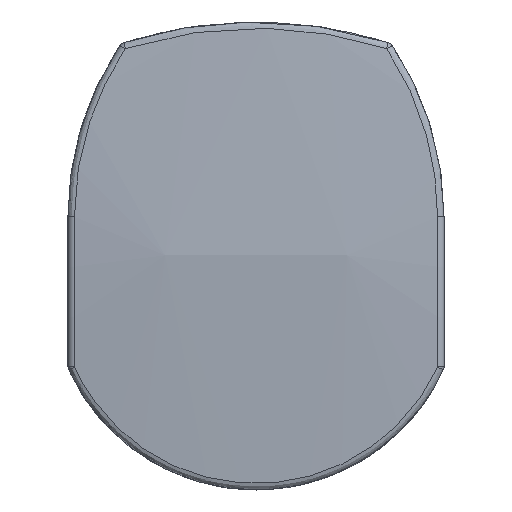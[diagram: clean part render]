
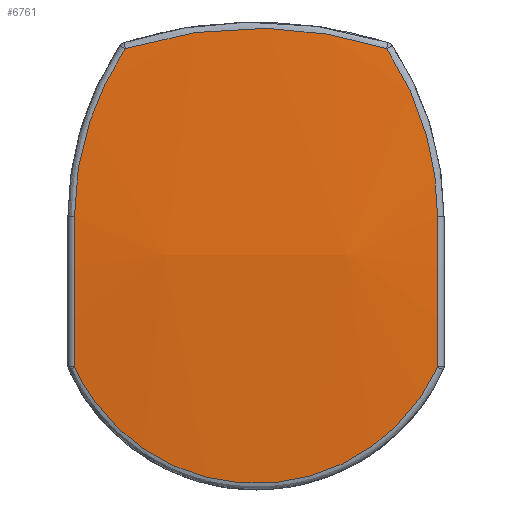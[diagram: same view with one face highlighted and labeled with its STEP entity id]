
A CAD part, front view. The second image highlights one B-rep face of the part: STEP entity #6761.
In plain terms, the highlighted spherical face has radius 250 mm.
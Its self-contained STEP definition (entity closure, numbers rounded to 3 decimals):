
#5819=CARTESIAN_POINT('',(-18.082,-6.372,29.996));
#5820=VERTEX_POINT('',#5819);
#5844=CARTESIAN_POINT('',(-25.1,-7.82,6.792));
#5845=VERTEX_POINT('',#5844);
#5853=CARTESIAN_POINT('',(-25.1,-7.82,6.792));
#5854=CARTESIAN_POINT('',(-25.1,-7.722,9.128));
#5855=CARTESIAN_POINT('',(-24.805,-7.555,12.652));
#5856=CARTESIAN_POINT('',(-23.824,-7.296,17.246));
#5857=CARTESIAN_POINT('',(-22.81,-7.087,20.598));
#5858=CARTESIAN_POINT('',(-21.513,-6.862,23.871));
#5859=CARTESIAN_POINT('',(-19.943,-6.623,27.024));
#5860=CARTESIAN_POINT('',(-18.728,-6.456,29.025));
#5861=CARTESIAN_POINT('',(-18.082,-6.372,29.996));
#5862=B_SPLINE_CURVE_WITH_KNOTS('',3,(#5853,#5854,#5855,#5856,#5857,#5858,#5859,#5860,#5861),.UNSPECIFIED.,.F.,.U.,(4,1,1,1,1,1,4),(0.0,0.699,1.048,1.397,1.747,2.096,2.445),.UNSPECIFIED.);
#5863=EDGE_CURVE('',#5845,#5820,#5862,.T.);
#5875=CARTESIAN_POINT('',(-25.1,-7.82,-13.976));
#5876=VERTEX_POINT('',#5875);
#5884=CARTESIAN_POINT('',(-25.1,240.7,-3.6));
#5885=DIRECTION('',(-1.0,0.0,0.0));
#5886=DIRECTION('',(0.0,-1.,0.));
#5887=AXIS2_PLACEMENT_3D('',#5884,#5885,#5886);
#5888=CIRCLE('',#5887,248.737);
#5889=EDGE_CURVE('',#5876,#5845,#5888,.T.);
#5938=CARTESIAN_POINT('',(-18.029,-6.37,30.035));
#5939=VERTEX_POINT('',#5938);
#5958=CARTESIAN_POINT('',(-18.082,-6.372,29.996));
#5959=CARTESIAN_POINT('',(-18.076,-6.371,30.005));
#5960=CARTESIAN_POINT('',(-18.06,-6.37,30.022));
#5961=CARTESIAN_POINT('',(-18.04,-6.37,30.032));
#5962=CARTESIAN_POINT('',(-18.029,-6.37,30.035));
#5963=B_SPLINE_CURVE_WITH_KNOTS('',3,(#5958,#5959,#5960,#5961,#5962),.UNSPECIFIED.,.F.,.U.,(4,1,4),(0.0,0.003,0.007),.UNSPECIFIED.);
#5964=EDGE_CURVE('',#5820,#5939,#5963,.T.);
#6016=CARTESIAN_POINT('',(-25.091,-7.819,-14.018));
#6017=VERTEX_POINT('',#6016);
#6025=CARTESIAN_POINT('',(-25.091,-7.819,-14.018));
#6026=CARTESIAN_POINT('',(-25.095,-7.819,-14.011));
#6027=CARTESIAN_POINT('',(-25.099,-7.82,-13.997));
#6028=CARTESIAN_POINT('',(-25.1,-7.82,-13.982));
#6029=CARTESIAN_POINT('',(-25.1,-7.82,-13.976));
#6030=B_SPLINE_CURVE_WITH_KNOTS('',3,(#6025,#6026,#6027,#6028,#6029),.UNSPECIFIED.,.F.,.U.,(4,1,4),(0.0,0.002,0.004),.UNSPECIFIED.);
#6031=EDGE_CURVE('',#6017,#5876,#6030,.T.);
#6100=CARTESIAN_POINT('',(18.029,-6.37,30.035));
#6101=VERTEX_POINT('',#6100);
#6124=CARTESIAN_POINT('',(-18.029,-6.37,30.035));
#6125=CARTESIAN_POINT('',(-16.374,-6.419,30.564));
#6126=CARTESIAN_POINT('',(-11.323,-6.546,31.939));
#6127=CARTESIAN_POINT('',(-4.348,-6.631,32.866));
#6128=CARTESIAN_POINT('',(2.607,-6.631,32.865));
#6129=CARTESIAN_POINT('',(7.836,-6.588,32.404));
#6130=CARTESIAN_POINT('',(13.006,-6.503,31.479));
#6131=CARTESIAN_POINT('',(16.374,-6.419,30.564));
#6132=CARTESIAN_POINT('',(18.029,-6.37,30.035));
#6133=B_SPLINE_CURVE_WITH_KNOTS('',3,(#6124,#6125,#6126,#6127,#6128,#6129,#6130,#6131,#6132),.UNSPECIFIED.,.F.,.U.,(4,1,1,1,1,1,4),(0.0,0.519,1.558,2.077,2.597,3.116,3.635),.UNSPECIFIED.);
#6134=EDGE_CURVE('',#5939,#6101,#6133,.T.);
#6338=CARTESIAN_POINT('',(25.091,-7.819,-14.018));
#6339=VERTEX_POINT('',#6338);
#6347=CARTESIAN_POINT('',(25.091,-7.819,-14.018));
#6348=CARTESIAN_POINT('',(24.469,-7.825,-15.372));
#6349=CARTESIAN_POINT('',(23.364,-7.834,-17.342));
#6350=CARTESIAN_POINT('',(21.582,-7.845,-19.766));
#6351=CARTESIAN_POINT('',(20.105,-7.852,-21.464));
#6352=CARTESIAN_POINT('',(18.506,-7.859,-23.027));
#6353=CARTESIAN_POINT('',(16.773,-7.866,-24.466));
#6354=CARTESIAN_POINT('',(14.926,-7.872,-25.76));
#6355=CARTESIAN_POINT('',(12.762,-7.877,-27.026));
#6356=CARTESIAN_POINT('',(9.382,-7.884,-28.597));
#6357=CARTESIAN_POINT('',(5.975,-7.888,-29.551));
#6358=CARTESIAN_POINT('',(2.996,-7.89,-29.957));
#6359=CARTESIAN_POINT('',(1.008,-7.891,-30.119));
#6360=CARTESIAN_POINT('',(-1.482,-7.891,-30.12));
#6361=CARTESIAN_POINT('',(-4.979,-7.889,-29.742));
#6362=CARTESIAN_POINT('',(-8.152,-7.886,-28.949));
#6363=CARTESIAN_POINT('',(-10.935,-7.881,-27.881));
#6364=CARTESIAN_POINT('',(-13.644,-7.875,-26.582));
#6365=CARTESIAN_POINT('',(-16.191,-7.868,-24.949));
#6366=CARTESIAN_POINT('',(-18.496,-7.859,-23.036));
#6367=CARTESIAN_POINT('',(-20.632,-7.85,-20.951));
#6368=CARTESIAN_POINT('',(-22.996,-7.837,-18.));
#6369=CARTESIAN_POINT('',(-24.469,-7.825,-15.372));
#6370=CARTESIAN_POINT('',(-25.091,-7.819,-14.018));
#6371=B_SPLINE_CURVE_WITH_KNOTS('',3,(#6347,#6348,#6349,#6350,#6351,#6352,#6353,#6354,#6355,#6356,#6357,#6358,#6359,#6360,#6361,#6362,#6363,#6364,#6365,#6366,#6367,#6368,#6369,#6370),.UNSPECIFIED.,.F.,.U.,(4,1,1,1,1,1,1,1,1,1,1,1,1,1,1,1,1,1,1,1,1,4),(0.0,0.445,0.668,0.891,1.113,1.336,1.558,1.781,2.078,2.672,2.82,2.969,3.265,3.562,4.007,4.23,4.453,4.898,5.121,5.343,5.789,6.234),.UNSPECIFIED.);
#6372=EDGE_CURVE('',#6339,#6017,#6371,.T.);
#6413=CARTESIAN_POINT('',(18.082,-6.372,29.996));
#6414=VERTEX_POINT('',#6413);
#6433=CARTESIAN_POINT('',(18.029,-6.37,30.035));
#6434=CARTESIAN_POINT('',(18.04,-6.37,30.032));
#6435=CARTESIAN_POINT('',(18.06,-6.37,30.022));
#6436=CARTESIAN_POINT('',(18.076,-6.371,30.005));
#6437=CARTESIAN_POINT('',(18.082,-6.372,29.996));
#6438=B_SPLINE_CURVE_WITH_KNOTS('',3,(#6433,#6434,#6435,#6436,#6437),.UNSPECIFIED.,.F.,.U.,(4,1,4),(0.0,0.003,0.007),.UNSPECIFIED.);
#6439=EDGE_CURVE('',#6101,#6414,#6438,.T.);
#6491=CARTESIAN_POINT('',(25.1,-7.82,-13.976));
#6492=VERTEX_POINT('',#6491);
#6500=CARTESIAN_POINT('',(25.1,-7.82,-13.976));
#6501=CARTESIAN_POINT('',(25.1,-7.82,-13.984));
#6502=CARTESIAN_POINT('',(25.099,-7.819,-13.999));
#6503=CARTESIAN_POINT('',(25.094,-7.819,-14.012));
#6504=CARTESIAN_POINT('',(25.091,-7.819,-14.018));
#6505=B_SPLINE_CURVE_WITH_KNOTS('',3,(#6500,#6501,#6502,#6503,#6504),.UNSPECIFIED.,.F.,.U.,(4,1,4),(0.0,0.002,0.004),.UNSPECIFIED.);
#6506=EDGE_CURVE('',#6492,#6339,#6505,.T.);
#6575=CARTESIAN_POINT('',(25.1,-7.82,6.792));
#6576=VERTEX_POINT('',#6575);
#6599=CARTESIAN_POINT('',(18.082,-6.372,29.996));
#6600=CARTESIAN_POINT('',(19.374,-6.541,28.055));
#6601=CARTESIAN_POINT('',(21.08,-6.787,24.962));
#6602=CARTESIAN_POINT('',(22.81,-7.087,20.598));
#6603=CARTESIAN_POINT('',(23.825,-7.296,17.247));
#6604=CARTESIAN_POINT('',(24.56,-7.49,13.8));
#6605=CARTESIAN_POINT('',(25.002,-7.666,10.303));
#6606=CARTESIAN_POINT('',(25.1,-7.771,7.96));
#6607=CARTESIAN_POINT('',(25.1,-7.82,6.792));
#6608=B_SPLINE_CURVE_WITH_KNOTS('',3,(#6599,#6600,#6601,#6602,#6603,#6604,#6605,#6606,#6607),.UNSPECIFIED.,.F.,.U.,(4,1,1,1,1,1,4),(0.,0.699,1.048,1.397,1.747,2.096,2.445),.UNSPECIFIED.);
#6609=EDGE_CURVE('',#6414,#6576,#6608,.T.);
#6628=CARTESIAN_POINT('',(25.1,240.7,-3.6));
#6629=DIRECTION('',(1.0,0.0,0.0));
#6630=DIRECTION('',(0.0,-1.,0.));
#6631=AXIS2_PLACEMENT_3D('',#6628,#6629,#6630);
#6632=CIRCLE('',#6631,248.737);
#6633=EDGE_CURVE('',#6576,#6492,#6632,.T.);
#6744=CARTESIAN_POINT('',(0.0,240.7,-3.6));
#6745=DIRECTION('',(0.0,0.0,1.0));
#6746=DIRECTION('',(-1.0,0.0,0.0));
#6747=AXIS2_PLACEMENT_3D('',#6744,#6745,#6746);
#6748=SPHERICAL_SURFACE('',#6747,250.0);
#6749=ORIENTED_EDGE('',*,*,#5863,.F.);
#6750=ORIENTED_EDGE('',*,*,#5889,.F.);
#6751=ORIENTED_EDGE('',*,*,#6031,.F.);
#6752=ORIENTED_EDGE('',*,*,#6372,.F.);
#6753=ORIENTED_EDGE('',*,*,#6506,.F.);
#6754=ORIENTED_EDGE('',*,*,#6633,.F.);
#6755=ORIENTED_EDGE('',*,*,#6609,.F.);
#6756=ORIENTED_EDGE('',*,*,#6439,.F.);
#6757=ORIENTED_EDGE('',*,*,#6134,.F.);
#6758=ORIENTED_EDGE('',*,*,#5964,.F.);
#6759=EDGE_LOOP('',(#6749,#6750,#6751,#6752,#6753,#6754,#6755,#6756,#6757,#6758));
#6760=FACE_OUTER_BOUND('',#6759,.T.);
#6761=ADVANCED_FACE('',(#6760),#6748,.T.);
